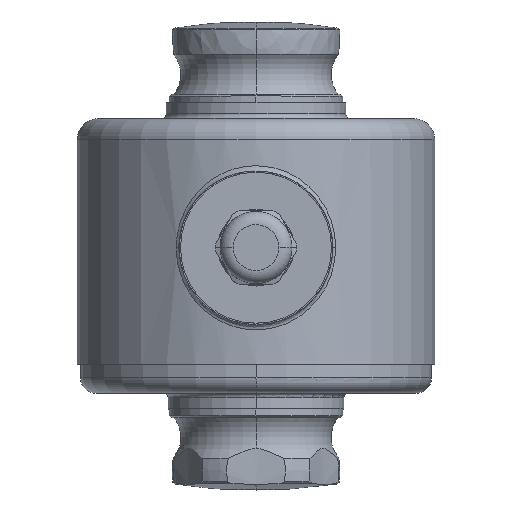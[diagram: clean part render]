
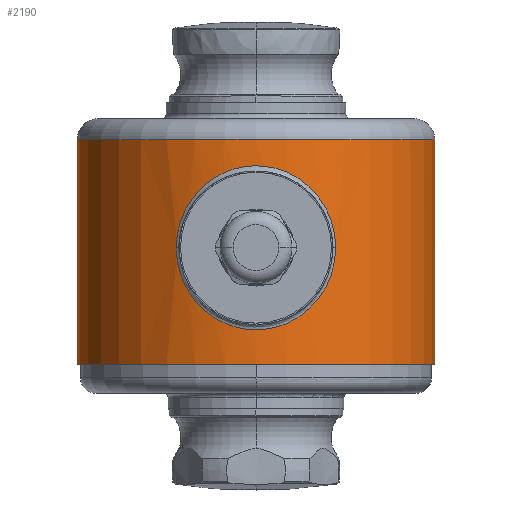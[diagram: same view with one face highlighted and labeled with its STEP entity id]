
A CAD part, top view. The second image highlights one B-rep face of the part: STEP entity #2190.
In plain terms, the highlighted cylindrical face has radius 34 mm (diameter 68 mm), a partial arc.
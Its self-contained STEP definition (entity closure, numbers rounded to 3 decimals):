
#69=DIRECTION('',(0.,-1.,0.));
#70=VECTOR('',#69,42.7);
#71=CARTESIAN_POINT('',(34.,42.7,0.));
#72=LINE('',#71,#70);
#73=DIRECTION('',(0.,1.,0.));
#74=VECTOR('',#73,42.7);
#75=CARTESIAN_POINT('',(-34.,0.,0.));
#76=LINE('',#75,#74);
#77=CARTESIAN_POINT('',(15.154,22.1,30.436));
#78=CARTESIAN_POINT('',(15.154,22.569,30.436));
#79=CARTESIAN_POINT('',(15.113,23.511,30.456));
#80=CARTESIAN_POINT('',(14.923,24.94,30.55));
#81=CARTESIAN_POINT('',(14.6,26.367,30.707));
#82=CARTESIAN_POINT('',(14.14,27.777,30.922));
#83=CARTESIAN_POINT('',(13.541,29.158,31.19));
#84=CARTESIAN_POINT('',(12.803,30.494,31.501));
#85=CARTESIAN_POINT('',(11.93,31.762,31.844));
#86=CARTESIAN_POINT('',(10.935,32.937,32.2));
#87=CARTESIAN_POINT('',(9.836,34.001,32.554));
#88=CARTESIAN_POINT('',(8.651,34.939,32.889));
#89=CARTESIAN_POINT('',(7.401,35.741,33.193));
#90=CARTESIAN_POINT('',(6.104,36.404,33.456));
#91=CARTESIAN_POINT('',(4.774,36.929,33.672));
#92=CARTESIAN_POINT('',(3.424,37.319,33.836));
#93=CARTESIAN_POINT('',(2.059,37.577,33.947));
#94=CARTESIAN_POINT('',(0.688,37.705,34.002));
#95=CARTESIAN_POINT('',(-0.685,37.705,34.002));
#96=CARTESIAN_POINT('',(-2.057,37.577,33.947));
#97=CARTESIAN_POINT('',(-3.421,37.32,33.837));
#98=CARTESIAN_POINT('',(-4.772,36.93,33.672));
#99=CARTESIAN_POINT('',(-6.102,36.405,33.457));
#100=CARTESIAN_POINT('',(-7.399,35.742,33.194));
#101=CARTESIAN_POINT('',(-8.65,34.939,32.889));
#102=CARTESIAN_POINT('',(-9.835,34.002,32.554));
#103=CARTESIAN_POINT('',(-10.935,32.938,32.2));
#104=CARTESIAN_POINT('',(-11.93,31.762,31.844));
#105=CARTESIAN_POINT('',(-12.803,30.494,31.501));
#106=CARTESIAN_POINT('',(-13.541,29.159,31.19));
#107=CARTESIAN_POINT('',(-14.14,27.778,30.922));
#108=CARTESIAN_POINT('',(-14.6,26.367,30.707));
#109=CARTESIAN_POINT('',(-14.923,24.94,30.55));
#110=CARTESIAN_POINT('',(-15.113,23.511,30.456));
#111=CARTESIAN_POINT('',(-15.154,22.569,30.436));
#112=CARTESIAN_POINT('',(-15.154,22.1,30.436));
#119=CARTESIAN_POINT('',(0.,0.,0.));
#120=DIRECTION('',(0.,1.,0.));
#121=DIRECTION('',(-1.,0.,0.));
#122=AXIS2_PLACEMENT_3D('',#119,#120,#121);
#873=CARTESIAN_POINT('',(0.,42.7,0.));
#874=DIRECTION('',(0.,-1.,0.));
#875=DIRECTION('',(1.,0.,0.));
#876=AXIS2_PLACEMENT_3D('',#873,#874,#875);
#878=CARTESIAN_POINT('',(0.,42.7,0.));
#879=DIRECTION('',(0.,-1.,0.));
#880=DIRECTION('',(1.,0.,0.005));
#881=AXIS2_PLACEMENT_3D('',#878,#879,#880);
#1130=CARTESIAN_POINT('',(15.154,22.1,30.436));
#1131=CARTESIAN_POINT('',(15.154,21.631,30.436));
#1132=CARTESIAN_POINT('',(15.113,20.689,30.456));
#1133=CARTESIAN_POINT('',(14.923,19.259,30.55));
#1134=CARTESIAN_POINT('',(14.6,17.833,30.707));
#1135=CARTESIAN_POINT('',(14.14,16.421,30.922));
#1136=CARTESIAN_POINT('',(13.541,15.041,31.19));
#1137=CARTESIAN_POINT('',(12.802,13.705,31.502));
#1138=CARTESIAN_POINT('',(11.929,12.437,31.844));
#1139=CARTESIAN_POINT('',(10.934,11.261,32.2));
#1140=CARTESIAN_POINT('',(9.834,10.198,32.554));
#1141=CARTESIAN_POINT('',(8.65,9.261,32.889));
#1142=CARTESIAN_POINT('',(7.399,8.458,33.194));
#1143=CARTESIAN_POINT('',(6.103,7.795,33.457));
#1144=CARTESIAN_POINT('',(4.773,7.27,33.672));
#1145=CARTESIAN_POINT('',(3.422,6.88,33.837));
#1146=CARTESIAN_POINT('',(2.057,6.623,33.947));
#1147=CARTESIAN_POINT('',(0.686,6.495,34.002));
#1148=CARTESIAN_POINT('',(-0.687,6.495,
34.002));
#1149=CARTESIAN_POINT('',(-2.059,6.623,33.947));
#1150=CARTESIAN_POINT('',(-3.423,6.881,33.836));
#1151=CARTESIAN_POINT('',(-4.775,7.271,33.672));
#1152=CARTESIAN_POINT('',(-6.104,7.796,33.456));
#1153=CARTESIAN_POINT('',(-7.401,8.46,33.193));
#1154=CARTESIAN_POINT('',(-8.652,9.262,32.889));
#1155=CARTESIAN_POINT('',(-9.837,10.2,32.553));
#1156=CARTESIAN_POINT('',(-10.936,11.264,32.199));
#1157=CARTESIAN_POINT('',(-11.931,12.44,31.843));
#1158=CARTESIAN_POINT('',(-12.805,13.709,31.501));
#1159=CARTESIAN_POINT('',(-13.542,15.044,31.189));
#1160=CARTESIAN_POINT('',(-14.141,16.424,30.922));
#1161=CARTESIAN_POINT('',(-14.6,17.835,30.706));
#1162=CARTESIAN_POINT('',(-14.924,19.261,30.55));
#1163=CARTESIAN_POINT('',(-15.113,20.69,30.456));
#1164=CARTESIAN_POINT('',(-15.154,21.631,30.436));
#1165=CARTESIAN_POINT('',(-15.154,22.1,30.436));
#1688=VERTEX_POINT('',#77);
#1689=VERTEX_POINT('',#112);
#1690=CARTESIAN_POINT('',(34.,42.7,0.));
#1691=CARTESIAN_POINT('',(34.,0.,0.));
#1692=VERTEX_POINT('',#1690);
#1693=VERTEX_POINT('',#1691);
#1694=CARTESIAN_POINT('',(-34.,0.,
0.));
#1695=VERTEX_POINT('',#1694);
#1696=CARTESIAN_POINT('',(-34.,42.7,0.));
#1697=VERTEX_POINT('',#1696);
#1698=CARTESIAN_POINT('',(34.,42.7,0.166));
#1699=VERTEX_POINT('',#1698);
#2168=CARTESIAN_POINT('',(0.,21.35,0.));
#2169=DIRECTION('',(0.,1.,0.));
#2170=DIRECTION('',(-1.,0.,0.));
#2171=AXIS2_PLACEMENT_3D('',#2168,#2169,#2170);
#2172=CYLINDRICAL_SURFACE('',#2171,34.);
#2174=ORIENTED_EDGE('',*,*,#2173,.T.);
#2176=ORIENTED_EDGE('',*,*,#2175,.F.);
#2178=ORIENTED_EDGE('',*,*,#2177,.T.);
#2180=ORIENTED_EDGE('',*,*,#2179,.F.);
#2182=ORIENTED_EDGE('',*,*,#2181,.F.);
#2183=EDGE_LOOP('',(#2174,#2176,#2178,#2180,#2182));
#2184=FACE_OUTER_BOUND('',#2183,.F.);
#2185=ORIENTED_EDGE('',*,*,#2158,.T.);
#2187=ORIENTED_EDGE('',*,*,#2186,.F.);
#2188=EDGE_LOOP('',(#2185,#2187));
#2189=FACE_BOUND('',#2188,.F.);
#2190=ADVANCED_FACE('',(#2184,#2189),#2172,.T.);
#113=B_SPLINE_CURVE_WITH_KNOTS('',3,(#77,#78,#79,#80,#81,#82,#83,#84,#85,#86,
#87,#88,#89,#90,#91,#92,#93,#94,#95,#96,#97,#98,#99,#100,#101,#102,#103,#104,
#105,#106,#107,#108,#109,#110,#111,#112),.UNSPECIFIED.,.F.,.F.,(4,1,1,1,1,1,1,1,
1,1,1,1,1,1,1,1,1,1,1,1,1,1,1,1,1,1,1,1,1,1,1,1,1,4),(0.,0.03,
0.061,0.091,0.121,0.152,
0.182,0.212,0.242,0.273,
0.303,0.333,0.364,0.394,
0.424,0.455,0.485,0.515,
0.545,0.576,0.606,0.636,
0.667,0.697,0.727,0.758,
0.788,0.818,0.848,0.879,
0.909,0.939,0.97,1.),.UNSPECIFIED.);
#123=CIRCLE('',#122,34.);
#877=CIRCLE('',#876,34.);
#882=CIRCLE('',#881,34.);
#1166=B_SPLINE_CURVE_WITH_KNOTS('',3,(#1130,#1131,#1132,#1133,#1134,#1135,#1136,
#1137,#1138,#1139,#1140,#1141,#1142,#1143,#1144,#1145,#1146,#1147,#1148,#1149,
#1150,#1151,#1152,#1153,#1154,#1155,#1156,#1157,#1158,#1159,#1160,#1161,#1162,
#1163,#1164,#1165),.UNSPECIFIED.,.F.,.F.,(4,1,1,1,1,1,1,1,1,1,1,1,1,1,1,1,1,1,1,
1,1,1,1,1,1,1,1,1,1,1,1,1,1,4),(0.,0.03,0.061,
0.091,0.121,0.152,0.182,
0.212,0.242,0.273,0.303,
0.333,0.364,0.394,0.424,
0.455,0.485,0.515,0.545,
0.576,0.606,0.636,0.667,
0.697,0.727,0.758,0.788,
0.818,0.848,0.879,0.909,
0.939,0.97,1.),.UNSPECIFIED.);
#2158=EDGE_CURVE('',#1688,#1689,#113,.T.);
#2173=EDGE_CURVE('',#1692,#1693,#72,.T.);
#2175=EDGE_CURVE('',#1695,#1693,#123,.T.);
#2177=EDGE_CURVE('',#1695,#1697,#76,.T.);
#2179=EDGE_CURVE('',#1699,#1697,#882,.T.);
#2181=EDGE_CURVE('',#1692,#1699,#877,.T.);
#2186=EDGE_CURVE('',#1688,#1689,#1166,.T.);
